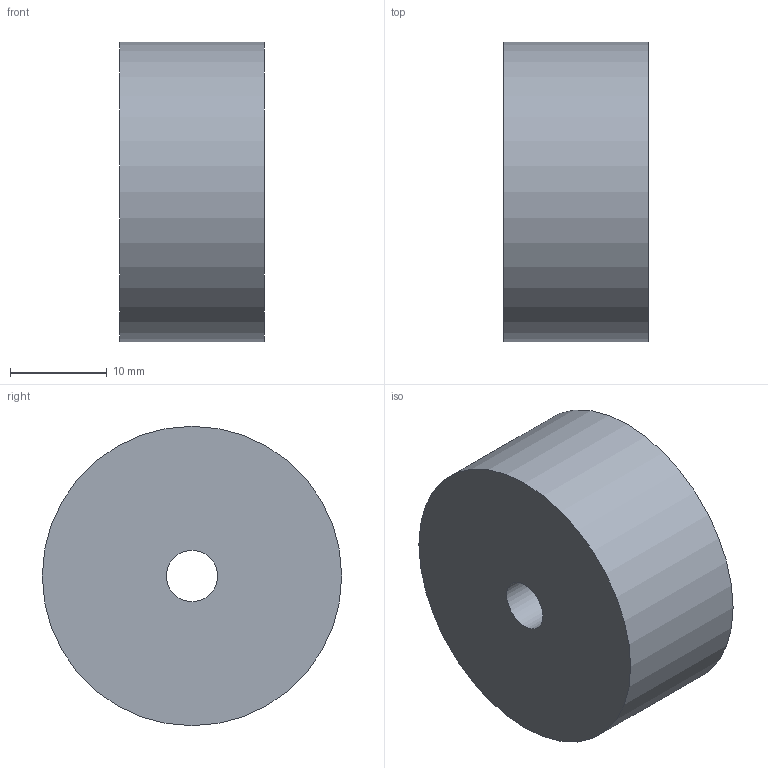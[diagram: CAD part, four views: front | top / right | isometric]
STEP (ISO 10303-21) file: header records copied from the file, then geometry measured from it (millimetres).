
FILE_DESCRIPTION( ( 'Unknown' ), '1' );
FILE_NAME( 'X:/SolidEdge/Models/Dokumentationen/Induktiv/Magnetsensoren/Vereinfachte Modelle/Neutralformate/11053959_oA.stp', 'Unknown', ( 'Unknown' ), ( 'Unknown' ), 'PSStep 14.0', 'Unknown', ' ' );
FILE_SCHEMA( ( 'AUTOMOTIVE_DESIGN { 1 0 10303 214 1 1 1 1 }' ) );
Length unit declared in the file: millimetre
Products named in the file (1): 1
Bounding box: 15 x 31 x 31 mm (x, y, z)
Volume: 10807.4 mm3; surface area: 3157.7 mm2
Topology: 1 solids, 1 shells, 5 faces, 8 edges, 5 vertices
Faces by surface type: cylinder 2, plane 2, cone 1
Full cylindrical faces by diameter (mm): 5.3 x1, 31 x1
Entity records: 164 total; most frequent: DIRECTION 22, CARTESIAN_POINT 16, AXIS2_PLACEMENT_3D 11, EDGE_LOOP 10, ORIENTED_EDGE 10, FACE_OUTER_BOUND 7, STYLED_ITEM 5, PRESENTATION_STYLE_ASSIGNMENT 5
